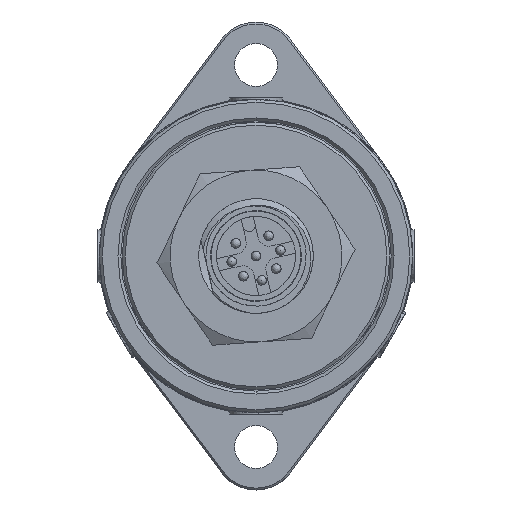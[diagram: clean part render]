
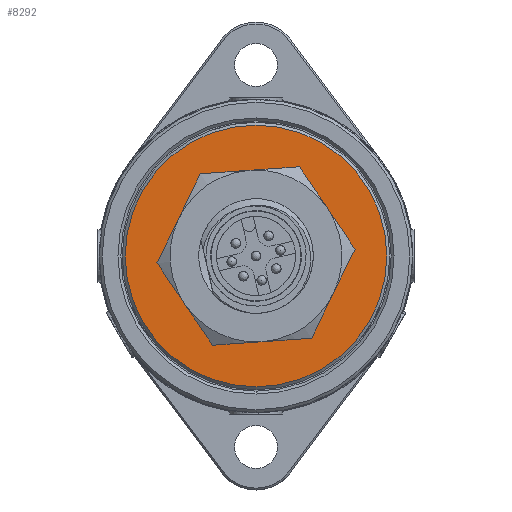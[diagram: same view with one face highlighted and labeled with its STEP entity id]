
A CAD part, left-side view. The second image highlights one B-rep face of the part: STEP entity #8292.
In plain terms, the highlighted planar face has unit normal (-1, 0, 0).
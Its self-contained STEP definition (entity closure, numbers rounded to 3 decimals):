
#2375 = CARTESIAN_POINT ( 'NONE',  ( -233.735, 97., 5.196 ) ) ;
#4343 = DIRECTION ( 'NONE',  ( 1., 0., 0. ) ) ;
#4693 = EDGE_CURVE ( 'NONE', #44135, #12080, #47593, .T. ) ;
#4842 = AXIS2_PLACEMENT_3D ( 'NONE', #29164, #33697, #15384 ) ;
#5067 = EDGE_CURVE ( 'NONE', #25335, #35407, #47340, .T. ) ;
#5606 = CIRCLE ( 'NONE', #44300, 6.3 ) ;
#7344 = PLANE ( 'NONE',  #33485 ) ;
#8292 = ADVANCED_FACE ( 'NONE', ( #39660, #37210 ), #7344, .F. ) ;
#9319 = CARTESIAN_POINT ( 'NONE',  ( -233.735, 100., 0. ) ) ;
#11714 = DIRECTION ( 'NONE',  ( 0., 0.866, 0.5 ) ) ;
#12080 = VERTEX_POINT ( 'NONE', #35078 ) ;
#14625 = AXIS2_PLACEMENT_3D ( 'NONE', #21590, #16611, #11714 ) ;
#15384 = DIRECTION ( 'NONE',  ( 0., 0.866, 0.5 ) ) ;
#16611 = DIRECTION ( 'NONE',  ( -1., 0., 0. ) ) ;
#21590 = CARTESIAN_POINT ( 'NONE',  ( -233.735, 100., 0. ) ) ;
#25335 = VERTEX_POINT ( 'NONE', #40405 ) ;
#25532 = EDGE_CURVE ( 'NONE', #35407, #25335, #5606, .T. ) ;
#26373 = EDGE_LOOP ( 'NONE', ( #34646, #34393 ) ) ;
#29164 = CARTESIAN_POINT ( 'NONE',  ( -233.735, 100., 0. ) ) ;
#32928 = ORIENTED_EDGE ( 'NONE', *, *, #42591, .T. ) ;
#32979 = CIRCLE ( 'NONE', #14625, 13.7 ) ;
#33485 = AXIS2_PLACEMENT_3D ( 'NONE', #2375, #45743, #40713 ) ;
#33697 = DIRECTION ( 'NONE',  ( -1., 0., 0. ) ) ;
#34112 = AXIS2_PLACEMENT_3D ( 'NONE', #44931, #39949, #35091 ) ;
#34393 = ORIENTED_EDGE ( 'NONE', *, *, #25532, .T. ) ;
#34646 = ORIENTED_EDGE ( 'NONE', *, *, #5067, .T. ) ;
#35078 = CARTESIAN_POINT ( 'NONE',  ( -233.735, 111.865, 6.85 ) ) ;
#35091 = DIRECTION ( 'NONE',  ( 0., 0.866, 0.5 ) ) ;
#35169 = EDGE_LOOP ( 'NONE', ( #32928, #36408 ) ) ;
#35407 = VERTEX_POINT ( 'NONE', #43875 ) ;
#36408 = ORIENTED_EDGE ( 'NONE', *, *, #4693, .T. ) ;
#37210 = FACE_BOUND ( 'NONE', #26373, .T. ) ;
#38709 = CARTESIAN_POINT ( 'NONE',  ( -233.735, 88.135, -6.85 ) ) ;
#39660 = FACE_OUTER_BOUND ( 'NONE', #35169, .T. ) ;
#39949 = DIRECTION ( 'NONE',  ( 1., 0., 0. ) ) ;
#40405 = CARTESIAN_POINT ( 'NONE',  ( -233.735, 94.544, -3.15 ) ) ;
#40713 = DIRECTION ( 'NONE',  ( 0., 0.866, 0.5 ) ) ;
#42591 = EDGE_CURVE ( 'NONE', #12080, #44135, #32979, .T. ) ;
#43875 = CARTESIAN_POINT ( 'NONE',  ( -233.735, 105.456, 3.15 ) ) ;
#44135 = VERTEX_POINT ( 'NONE', #38709 ) ;
#44300 = AXIS2_PLACEMENT_3D ( 'NONE', #9319, #4343, #47710 ) ;
#44931 = CARTESIAN_POINT ( 'NONE',  ( -233.735, 100., 0. ) ) ;
#45743 = DIRECTION ( 'NONE',  ( 1., 0., 0. ) ) ;
#47340 = CIRCLE ( 'NONE', #34112, 6.3 ) ;
#47593 = CIRCLE ( 'NONE', #4842, 13.7 ) ;
#47710 = DIRECTION ( 'NONE',  ( 0., 0.866, 0.5 ) ) ;
